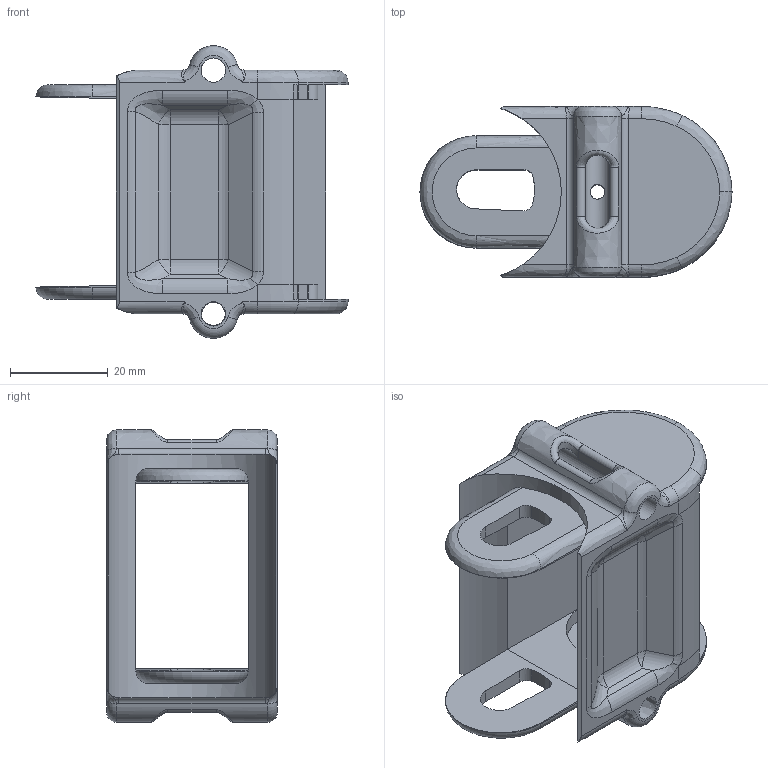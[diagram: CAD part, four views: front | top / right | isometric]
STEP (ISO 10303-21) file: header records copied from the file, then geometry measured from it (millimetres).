
FILE_DESCRIPTION((''),'2;1');
FILE_NAME('E:\Uebbing\temp\PFR 122\PFR122-75-Kunststoffanschluss.stp','2010-08-16T11:16:05',('UebbingXP'),(''),'Autodesk Inventor 10','Autodesk Inventor 10','');
FILE_SCHEMA(('AUTOMOTIVE_DESIGN { 1 0 10303 214 1 1 1 1 }'));
Length unit declared in the file: millimetre
Products named in the file (1): PFR122-75-Kunststoffanschluss
Bounding box: 64 x 35 x 60 mm (x, y, z)
Volume: 21700.9 mm3; surface area: 16105.1 mm2
Topology: 1 solids, 1 shells, 207 faces, 532 edges, 316 vertices
Faces by surface type: bspline 112, cylinder 47, plane 41, torus 7
Full cylindrical faces by diameter (mm): 3 x1, 5 x1
Entity records: 17325 total; most frequent: CARTESIAN_POINT 12744, ORIENTED_EDGE 1028, DIRECTION 826, EDGE_CURVE 514, VERTEX_POINT 312, AXIS2_PLACEMENT_3D 288, VECTOR 250, LINE 250
